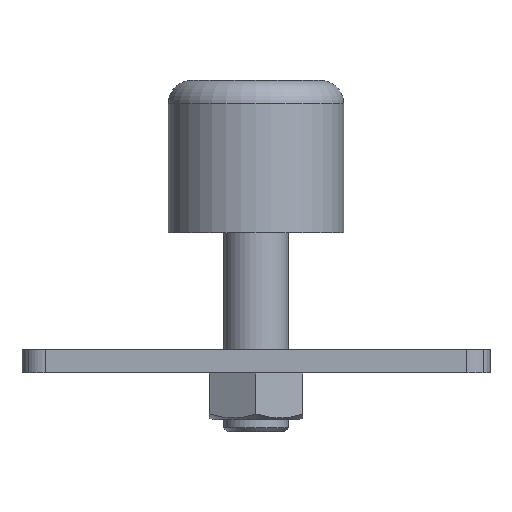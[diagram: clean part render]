
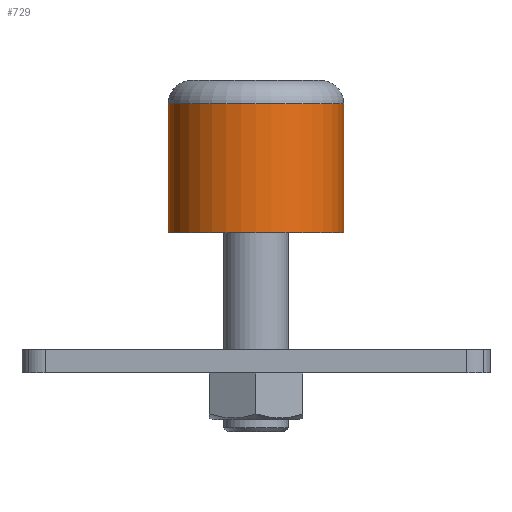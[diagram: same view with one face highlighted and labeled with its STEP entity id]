
A CAD part, front view. The second image highlights one B-rep face of the part: STEP entity #729.
In plain terms, the highlighted cylindrical face has radius 7.5 mm (diameter 15 mm), a partial arc.
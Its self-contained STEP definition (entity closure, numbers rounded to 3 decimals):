
#66 = VECTOR ( 'NONE', #344, 1000. ) ;
#78 = DIRECTION ( 'NONE',  ( 0., 0., 1. ) ) ;
#88 = CARTESIAN_POINT ( 'NONE',  ( 1.532, 36.997, 12. ) ) ;
#102 = DIRECTION ( 'NONE',  ( -1., 0., 0. ) ) ;
#105 = CYLINDRICAL_SURFACE ( 'NONE', #1138, 7.5 ) ;
#161 = CARTESIAN_POINT ( 'NONE',  ( -5.968, 36.997, 23. ) ) ;
#243 = CARTESIAN_POINT ( 'NONE',  ( -5.968, 36.997, 12. ) ) ;
#282 = DIRECTION ( 'NONE',  ( 0., 0., 1. ) ) ;
#295 = FACE_OUTER_BOUND ( 'NONE', #342, .T. ) ;
#311 = CARTESIAN_POINT ( 'NONE',  ( 1.532, 36.997, 12. ) ) ;
#322 = CARTESIAN_POINT ( 'NONE',  ( -5.968, 36.997, 12. ) ) ;
#342 = EDGE_LOOP ( 'NONE', ( #1221, #356, #1213, #385 ) ) ;
#344 = DIRECTION ( 'NONE',  ( 0., 0., 1. ) ) ;
#356 = ORIENTED_EDGE ( 'NONE', *, *, #362, .T. ) ;
#362 = EDGE_CURVE ( 'NONE', #501, #630, #555, .T. ) ;
#385 = ORIENTED_EDGE ( 'NONE', *, *, #596, .F. ) ;
#411 = DIRECTION ( 'NONE',  ( -1., 0., 0. ) ) ;
#501 = VERTEX_POINT ( 'NONE', #777 ) ;
#538 = CIRCLE ( 'NONE', #651, 7.5 ) ;
#555 = LINE ( 'NONE', #1284, #66 ) ;
#586 = CARTESIAN_POINT ( 'NONE',  ( 1.532, 36.997, 23. ) ) ;
#596 = EDGE_CURVE ( 'NONE', #961, #917, #983, .T. ) ;
#617 = DIRECTION ( 'NONE',  ( 0., 0., 1. ) ) ;
#630 = VERTEX_POINT ( 'NONE', #894 ) ;
#651 = AXIS2_PLACEMENT_3D ( 'NONE', #88, #799, #716 ) ;
#716 = DIRECTION ( 'NONE',  ( -1., 0., 0. ) ) ;
#722 = AXIS2_PLACEMENT_3D ( 'NONE', #586, #617, #102 ) ;
#729 = ADVANCED_FACE ( 'NONE', ( #295 ), #105, .T. ) ;
#770 = VECTOR ( 'NONE', #78, 1000. ) ;
#777 = CARTESIAN_POINT ( 'NONE',  ( 9.032, 36.997, 12. ) ) ;
#799 = DIRECTION ( 'NONE',  ( 0., 0., -1. ) ) ;
#894 = CARTESIAN_POINT ( 'NONE',  ( 9.032, 36.997, 23. ) ) ;
#917 = VERTEX_POINT ( 'NONE', #161 ) ;
#961 = VERTEX_POINT ( 'NONE', #322 ) ;
#983 = LINE ( 'NONE', #243, #770 ) ;
#1138 = AXIS2_PLACEMENT_3D ( 'NONE', #311, #282, #411 ) ;
#1213 = ORIENTED_EDGE ( 'NONE', *, *, #1301, .F. ) ;
#1215 = CIRCLE ( 'NONE', #722, 7.5 ) ;
#1221 = ORIENTED_EDGE ( 'NONE', *, *, #1318, .F. ) ;
#1284 = CARTESIAN_POINT ( 'NONE',  ( 9.032, 36.997, 12. ) ) ;
#1301 = EDGE_CURVE ( 'NONE', #917, #630, #1215, .T. ) ;
#1318 = EDGE_CURVE ( 'NONE', #501, #961, #538, .T. ) ;
